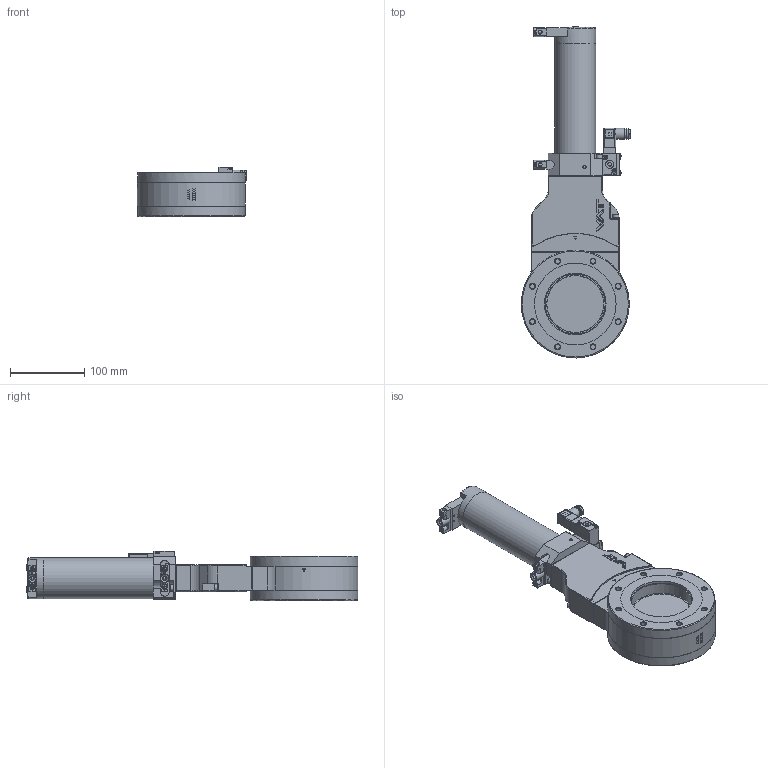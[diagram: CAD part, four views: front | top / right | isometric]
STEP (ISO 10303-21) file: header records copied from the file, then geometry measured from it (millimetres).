
FILE_DESCRIPTION(/* description */ (''),/* implementation_level */ '2;1');
FILE_NAME(/* name */ '1006922300_203.stp',/* time_stamp */ '2020-02-26T15:34:26+01:00',/* author */ (''),/* organization */ (''),/* preprocessor_version */ 'ST-DEVELOPER v16',/* originating_system */ 'SIEMENS PLM Software NX 11.0',/* authorisation */ '');
FILE_SCHEMA (('AP203_CONFIGURATION_CONTROLLED_3D_DESIGN_OF_MECHANICAL_PARTS_AND_ASSEMBLIES_MIM_LF { 1 0 10303 403 2 1 2}'));
Length unit declared in the file: millimetre
Products named in the file (40): 257863; 257866.2; 92838-01_2.2; 80477-01.1; N-7100-005_2.1; 80478-01.1; N-6195-007.2; 93115-01.1; 87105-01.1; N-6121-027.2; 251093.3; 467882; 437235; 73662-01.1; 488875; 252391.1; 251289.1; N-7557-016_1.1; N-7557-018.1; N-7557-016_2.1; N-6024-524.1; N-5018-005.1; 77379-01.1; N-6016-478.2; 224797.1; 224793.1; 218187.1; 253879.3; n-6134-407; 253882.4; 257861_NX-ARRAGMNTCLOSE (verriegelt); 1014288_NX-ARRAGMNTCLOSE_Massbild (O-Ring, Muttern, Blattfdr unterdru
eckt); 87090-R1.22_NX-ARRAGMNToffen_213913 Hub 4,45mm (mit Feder); 251092.4; 252392.19_NX-ARRAGMNT00_CLOSE HO (alle Innenteile unterdrueckt); N-7557-016_3.1_MODELNX-ARRAGMNTArrangement 1; 94800-r1.7_NX-ARRAGMNTKONFIG1; 78856-R1.3; 78855-r1.9_NX-ARRAGMNTMassbild, alle Innenteile unterdrueckt; 253932
Assembly tree (52 placements, depth 4):
  253932
    78855-r1.9_NX-ARRAGMNTMassbild, alle Innenteile unterdrueckt  x2
      N-6016-478.2
      78856-R1.3
        73662-01.1
      77379-01.1
    94800-r1.7_NX-ARRAGMNTKONFIG1
      N-5018-005.1  x2
      N-6024-524.1  x6
      N-7557-016_2.1
      N-7557-018.1
      N-7557-016_1.1
      N-7557-016_3.1_MODELNX-ARRAGMNTArrangement 1
        437235
        467882
    253882.4
    n-6134-407  x2
    253879.3
    218187.1
    224793.1
    252392.19_NX-ARRAGMNT00_CLOSE HO (alle Innenteile unterdrueckt)
      251092.4
        251093.3
        N-6121-027.2  x2
      251289.1
      252391.1
      87090-R1.22_NX-ARRAGMNToffen_213913 Hub 4,45mm (mit Feder)  x2
        87105-01.1
        93115-01.1
        N-6195-007.2
        80478-01.1
        N-7100-005_2.1
        80477-01.1
        92838-01_2.2
      488875  x2
    1014288_NX-ARRAGMNTCLOSE_Massbild (O-Ring, Muttern, Blattfdr unterdru
eckt)
      257861_NX-ARRAGMNTCLOSE (verriegelt)
        257866.2
        257863
    224797.1  x2
Bounding box: 147.55 x 447.68 x 66.3 mm (x, y, z)
Volume: 1111645.6 mm3; surface area: 300243.9 mm2
Topology: 52 solids, 53 shells, 2025 faces, 5213 edges, 3460 vertices
Faces by surface type: plane 1156, cylinder 495, cone 113, bspline 94, torus 78, extrusion 68, sphere 19, revolution 2
Full cylindrical faces by diameter (mm): 1.875 x2, 2.115 x8, 2.475 x6, 2.5 x6, 2.56 x2, 2.575 x2, 3 x13, 3.2 x2, 3.3 x2, 3.4 x4, 3.5 x13, 4 x2, 4.2 x11, 4.22 x1, 4.3 x2, 4.7 x4, 5 x15, 5.05 x4, 5.1 x3, 5.3 x2, 5.4 x1, 5.5 x6, 5.6 x2, 5.65 x2, 5.7 x2, 5.8 x4, 6 x8, 6.475 x2, 6.511 x2, 6.8 x18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
Entity records: 62937 total; most frequent: CARTESIAN_POINT 18945, ORIENTED_EDGE 7784, DIRECTION 7158, EDGE_CURVE 3892, VERTEX_POINT 2772, AXIS2_PLACEMENT_3D 2621, EDGE_LOOP 2143, VECTOR 1915
